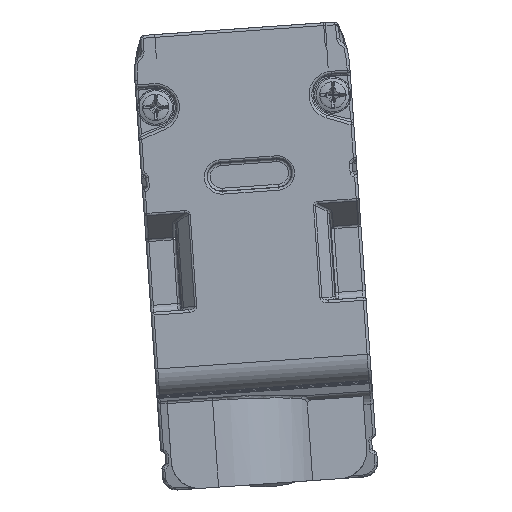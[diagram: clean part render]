
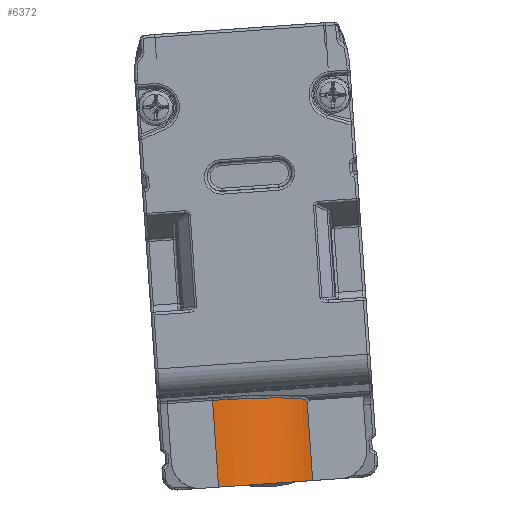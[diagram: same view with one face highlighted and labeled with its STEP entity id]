
A CAD part, front view. The second image highlights one B-rep face of the part: STEP entity #6372.
In plain terms, the highlighted cylindrical face has radius 7.5 mm (diameter 15 mm), a partial arc.
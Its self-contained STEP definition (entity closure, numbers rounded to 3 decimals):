
#436=B_SPLINE_CURVE_WITH_KNOTS('',3,(#38173,#38174,#38175,#38176,#38177,
#38178,#38179),.UNSPECIFIED.,.F.,.F.,(4,3,4),(0.,0.485,1.),.UNSPECIFIED.);
#1324=FACE_OUTER_BOUND('',#8051,.T.);
#2005=ELLIPSE('',#23262,7.53,7.5);
#2712=LINE('',#38170,#4361);
#2713=LINE('',#38183,#4362);
#4361=VECTOR('',#27295,1.);
#4362=VECTOR('',#27298,1.);
#6372=ADVANCED_FACE('',(#1324),#7211,.T.);
#7211=CYLINDRICAL_SURFACE('',#23264,7.5);
#8051=EDGE_LOOP('',(#10935,#10936,#10937,#10938,#10939));
#10935=ORIENTED_EDGE('',*,*,#18525,.T.);
#10936=ORIENTED_EDGE('',*,*,#18526,.T.);
#10937=ORIENTED_EDGE('',*,*,#18527,.T.);
#10938=ORIENTED_EDGE('',*,*,#18528,.T.);
#10939=ORIENTED_EDGE('',*,*,#18529,.F.);
#15613=VERTEX_POINT('',#38171);
#15614=VERTEX_POINT('',#38172);
#15615=VERTEX_POINT('',#38180);
#15616=VERTEX_POINT('',#38182);
#15617=VERTEX_POINT('',#38184);
#18525=EDGE_CURVE('',#15613,#15614,#2712,.T.);
#18526=EDGE_CURVE('',#15614,#15615,#436,.T.);
#18527=EDGE_CURVE('',#15615,#15616,#2005,.T.);
#18528=EDGE_CURVE('',#15616,#15617,#2713,.T.);
#18529=EDGE_CURVE('',#15613,#15617,#21306,.T.);
#21306=CIRCLE('',#23263,7.5);
#23262=AXIS2_PLACEMENT_3D('',#38181,#27296,#27297);
#23263=AXIS2_PLACEMENT_3D('',#38185,#27299,#27300);
#23264=AXIS2_PLACEMENT_3D('',#38186,#27301,#27302);
#27295=DIRECTION('',(-0.07,0.,0.998));
#27296=DIRECTION('',(0.069,-0.089,-0.994));
#27297=DIRECTION('',(0.006,0.996,-0.089));
#27298=DIRECTION('',(0.07,0.,-0.998));
#27299=DIRECTION('',(0.07,0.,-0.998));
#27300=DIRECTION('',(0.998,0.,0.07));
#27301=DIRECTION('',(0.07,0.,-0.998));
#27302=DIRECTION('',(0.,-1.,0.));
#38170=CARTESIAN_POINT('',(-40.701,-380.597,14.888));
#38171=CARTESIAN_POINT('',(-40.701,-380.597,14.888));
#38172=CARTESIAN_POINT('',(-41.088,-380.597,20.435));
#38173=CARTESIAN_POINT('',(-41.088,-380.597,20.435));
#38174=CARTESIAN_POINT('',(-41.139,-380.686,20.528));
#38175=CARTESIAN_POINT('',(-41.198,-380.793,20.603));
#38176=CARTESIAN_POINT('',(-41.263,-380.905,20.654));
#38177=CARTESIAN_POINT('',(-41.332,-381.024,20.708));
#38178=CARTESIAN_POINT('',(-41.408,-381.152,20.738));
#38179=CARTESIAN_POINT('',(-41.487,-381.278,20.743));
#38180=CARTESIAN_POINT('',(-41.487,-381.278,20.743));
#38181=CARTESIAN_POINT('',(-47.816,-377.318,19.944));
#38182=CARTESIAN_POINT('',(-47.863,-384.818,20.616));
#38183=CARTESIAN_POINT('',(-47.667,-384.818,17.815));
#38184=CARTESIAN_POINT('',(-47.43,-384.818,14.418));
#38185=CARTESIAN_POINT('',(-47.43,-377.318,14.418));
#38186=CARTESIAN_POINT('',(-52.434,-377.318,85.982));
